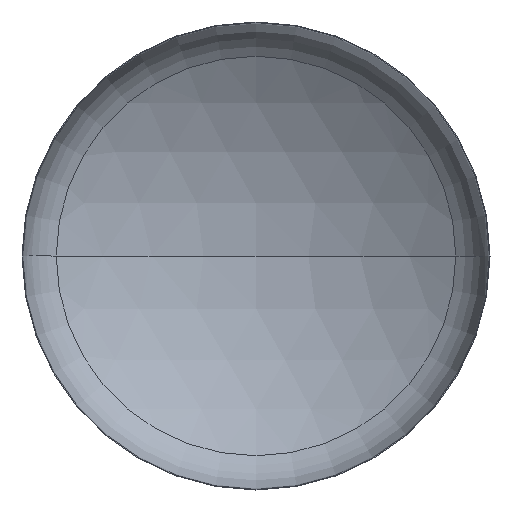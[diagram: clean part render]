
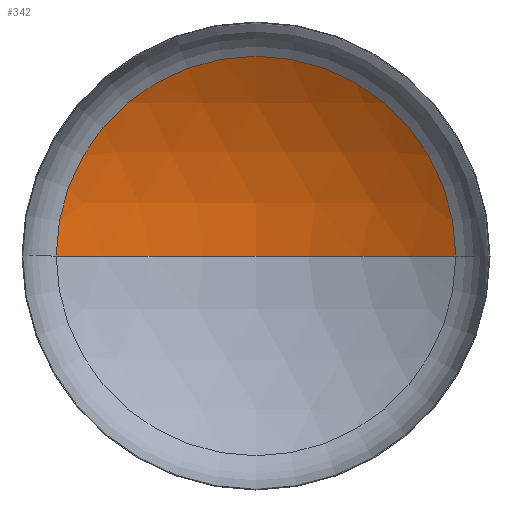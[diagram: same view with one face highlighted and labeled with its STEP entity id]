
A CAD part, front view. The second image highlights one B-rep face of the part: STEP entity #342.
In plain terms, the highlighted spherical face has radius 6000 mm.
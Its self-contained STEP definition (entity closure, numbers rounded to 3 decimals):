
#7 = AXIS2_PLACEMENT_3D ( 'NONE', #288, #145, #238 ) ;
#17 = VERTEX_POINT ( 'NONE', #330 ) ;
#34 = ORIENTED_EDGE ( 'NONE', *, *, #90, .T. ) ;
#48 = AXIS2_PLACEMENT_3D ( 'NONE', #173, #400, #262 ) ;
#52 = AXIS2_PLACEMENT_3D ( 'NONE', #189, #186, #187 ) ;
#53 = AXIS2_PLACEMENT_3D ( 'NONE', #280, #279, #196 ) ;
#90 = EDGE_CURVE ( 'NONE', #107, #148, #360, .T. ) ;
#91 = EDGE_CURVE ( 'NONE', #17, #107, #239, .T. ) ;
#92 = EDGE_CURVE ( 'NONE', #17, #148, #409, .T. ) ;
#94 = ORIENTED_EDGE ( 'NONE', *, *, #91, .T. ) ;
#107 = VERTEX_POINT ( 'NONE', #180 ) ;
#133 = ORIENTED_EDGE ( 'NONE', *, *, #92, .F. ) ;
#142 = EDGE_LOOP ( 'NONE', ( #133, #94, #34 ) ) ;
#145 = DIRECTION ( 'NONE',  ( 0., 0., -1. ) ) ;
#148 = VERTEX_POINT ( 'NONE', #191 ) ;
#173 = CARTESIAN_POINT ( 'NONE',  ( 0., -4067.78, 0. ) ) ;
#180 = CARTESIAN_POINT ( 'NONE',  ( 3201.238, 1006.87, 0. ) ) ;
#186 = DIRECTION ( 'NONE',  ( 0., 0., -1. ) ) ;
#187 = DIRECTION ( 'NONE',  ( -1., 0., 0. ) ) ;
#189 = CARTESIAN_POINT ( 'NONE',  ( 0., -4067.78, 0. ) ) ;
#191 = CARTESIAN_POINT ( 'NONE',  ( -3201.238, 1006.87, 0. ) ) ;
#196 = DIRECTION ( 'NONE',  ( 1., 0., 0. ) ) ;
#225 = SPHERICAL_SURFACE ( 'NONE', #7, 6000. ) ;
#238 = DIRECTION ( 'NONE',  ( -1., 0., 0. ) ) ;
#239 = CIRCLE ( 'NONE', #52, 6000. ) ;
#262 = DIRECTION ( 'NONE',  ( 1., 0., 0. ) ) ;
#279 = DIRECTION ( 'NONE',  ( 0., -1., 0. ) ) ;
#280 = CARTESIAN_POINT ( 'NONE',  ( 0., 1006.87, 0. ) ) ;
#281 = FACE_OUTER_BOUND ( 'NONE', #142, .T. ) ;
#288 = CARTESIAN_POINT ( 'NONE',  ( 0., -4067.78, 0. ) ) ;
#330 = CARTESIAN_POINT ( 'NONE',  ( 0., 1932.22, 0. ) ) ;
#342 = ADVANCED_FACE ( 'NONE', ( #281 ), #225, .F. ) ;
#360 = CIRCLE ( 'NONE', #53, 3201.238 ) ;
#400 = DIRECTION ( 'NONE',  ( 0., 0., 1. ) ) ;
#409 = CIRCLE ( 'NONE', #48, 6000. ) ;
